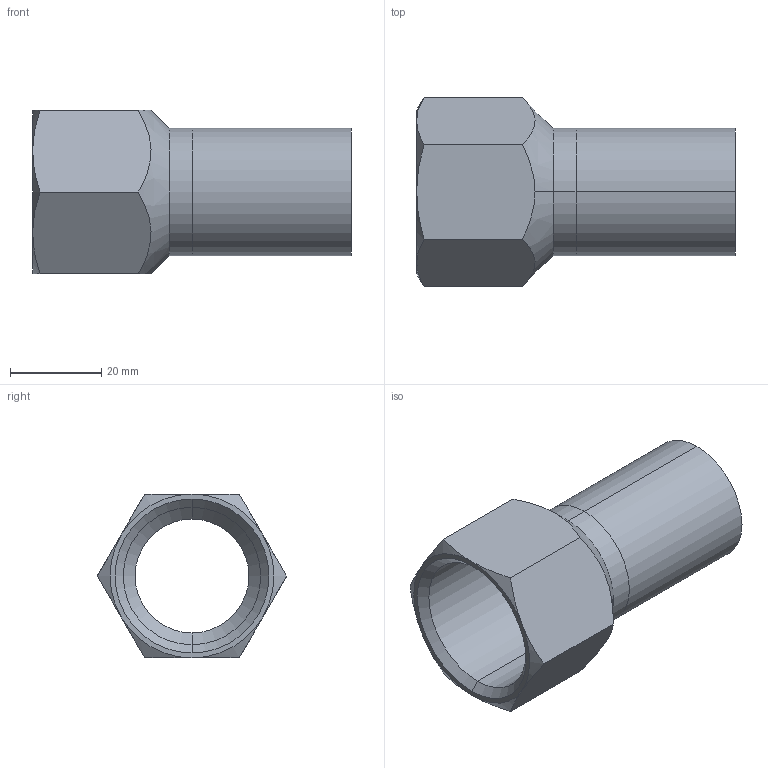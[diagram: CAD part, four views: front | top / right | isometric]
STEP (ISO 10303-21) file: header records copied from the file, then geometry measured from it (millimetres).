
FILE_DESCRIPTION (( 'STEP AP203' ), '1' );
FILE_NAME ('GDA6389.STEP', '2019-01-14T06:20:12', ( '' ), ( '' ), 'SwSTEP 2.0', 'SolidWorks 2015', '' );
FILE_SCHEMA (( 'CONFIG_CONTROL_DESIGN' ));
Length unit declared in the file: millimetre
Products named in the file (3): GDA6389; 28; ITC-I-03-28℅1
Assembly tree (2 placements, depth 2):
  GDA6389
    28
    ITC-I-03-28℅1
Bounding box: 70 x 41.57 x 36 mm (x, y, z)
Volume: 16691.6 mm3; surface area: 13995.1 mm2
Topology: 2 solids, 2 shells, 32 faces, 70 edges, 42 vertices
Faces by surface type: cone 12, cylinder 10, plane 10
Entity records: 1311 total; most frequent: CARTESIAN_POINT 317, DIRECTION 152, ORIENTED_EDGE 140, EDGE_CURVE 70, AXIS2_PLACEMENT_3D 65, VERTEX_POINT 42, EDGE_LOOP 36, FACE_OUTER_BOUND 32
